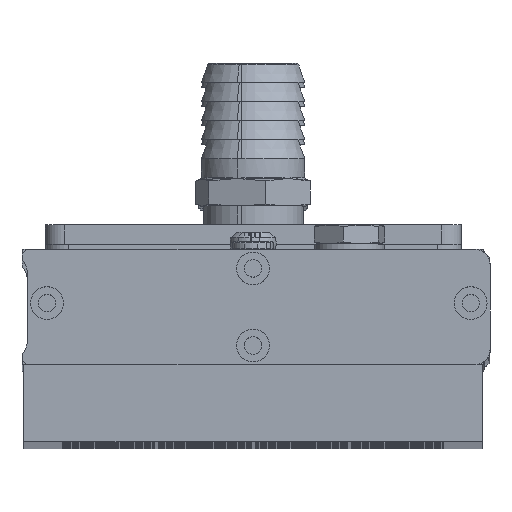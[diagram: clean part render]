
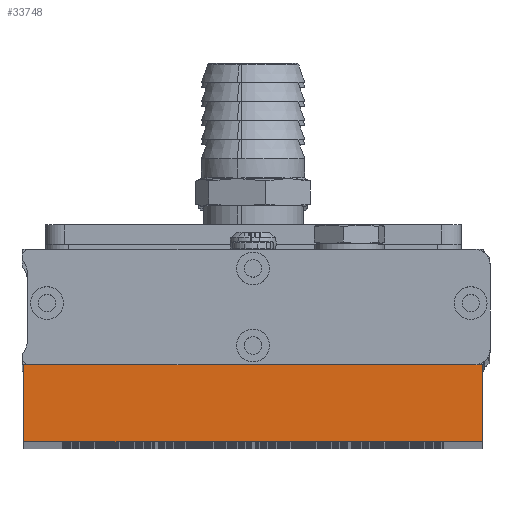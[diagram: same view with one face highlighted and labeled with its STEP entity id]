
A CAD part, top view. The second image highlights one B-rep face of the part: STEP entity #33748.
In plain terms, the highlighted planar face has unit normal (0, 0, 1).
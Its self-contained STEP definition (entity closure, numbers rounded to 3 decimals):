
#555 = DIRECTION ( 'NONE',  ( 1., 0., 0. ) ) ;
#593 = VERTEX_POINT ( 'NONE', #14127 ) ;
#1520 = DIRECTION ( 'NONE',  ( 0., -1., 0. ) ) ;
#1553 = AXIS2_PLACEMENT_3D ( 'NONE', #5421, #1930, #15820 ) ;
#1783 = CARTESIAN_POINT ( 'NONE',  ( -82.6, -51.3, 502. ) ) ;
#1930 = DIRECTION ( 'NONE',  ( 0., 0., -1. ) ) ;
#2072 = DIRECTION ( 'NONE',  ( 0., -1., 0. ) ) ;
#3803 = CARTESIAN_POINT ( 'NONE',  ( -82.6, -71.3, 502. ) ) ;
#4310 = ORIENTED_EDGE ( 'NONE', *, *, #33808, .T. ) ;
#5421 = CARTESIAN_POINT ( 'NONE',  ( -82.6, -51.3, 502. ) ) ;
#6391 = LINE ( 'NONE', #1783, #30452 ) ;
#7097 = EDGE_LOOP ( 'NONE', ( #43330, #29808, #34609, #4310 ) ) ;
#7558 = LINE ( 'NONE', #35810, #25746 ) ;
#7873 = VECTOR ( 'NONE', #1520, 1000. ) ;
#8772 = EDGE_CURVE ( 'NONE', #21639, #42179, #7558, .T. ) ;
#9272 = CARTESIAN_POINT ( 'NONE',  ( -82.6, -51.3, 502. ) ) ;
#10402 = EDGE_CURVE ( 'NONE', #14165, #593, #28603, .T. ) ;
#14127 = CARTESIAN_POINT ( 'NONE',  ( 36.4, -71.3, 502. ) ) ;
#14165 = VERTEX_POINT ( 'NONE', #3803 ) ;
#14329 = LINE ( 'NONE', #15725, #7873 ) ;
#15725 = CARTESIAN_POINT ( 'NONE',  ( 36.4, -51.3, 502. ) ) ;
#15820 = DIRECTION ( 'NONE',  ( 0., 1., 0. ) ) ;
#16053 = CARTESIAN_POINT ( 'NONE',  ( 36.4, -51.3, 502. ) ) ;
#18021 = CARTESIAN_POINT ( 'NONE',  ( -82.6, -71.3, 502. ) ) ;
#21639 = VERTEX_POINT ( 'NONE', #9272 ) ;
#24419 = EDGE_CURVE ( 'NONE', #42179, #593, #14329, .T. ) ;
#24848 = VECTOR ( 'NONE', #555, 1000. ) ;
#25746 = VECTOR ( 'NONE', #31786, 1000. ) ;
#28603 = LINE ( 'NONE', #18021, #24848 ) ;
#29808 = ORIENTED_EDGE ( 'NONE', *, *, #24419, .F. ) ;
#30452 = VECTOR ( 'NONE', #2072, 1000. ) ;
#31786 = DIRECTION ( 'NONE',  ( 1., 0., 0. ) ) ;
#33748 = ADVANCED_FACE ( 'NONE', ( #37923 ), #39231, .F. ) ;
#33808 = EDGE_CURVE ( 'NONE', #21639, #14165, #6391, .T. ) ;
#34609 = ORIENTED_EDGE ( 'NONE', *, *, #8772, .F. ) ;
#35810 = CARTESIAN_POINT ( 'NONE',  ( -82.6, -51.3, 502. ) ) ;
#37923 = FACE_OUTER_BOUND ( 'NONE', #7097, .T. ) ;
#39231 = PLANE ( 'NONE',  #1553 ) ;
#42179 = VERTEX_POINT ( 'NONE', #16053 ) ;
#43330 = ORIENTED_EDGE ( 'NONE', *, *, #10402, .T. ) ;
